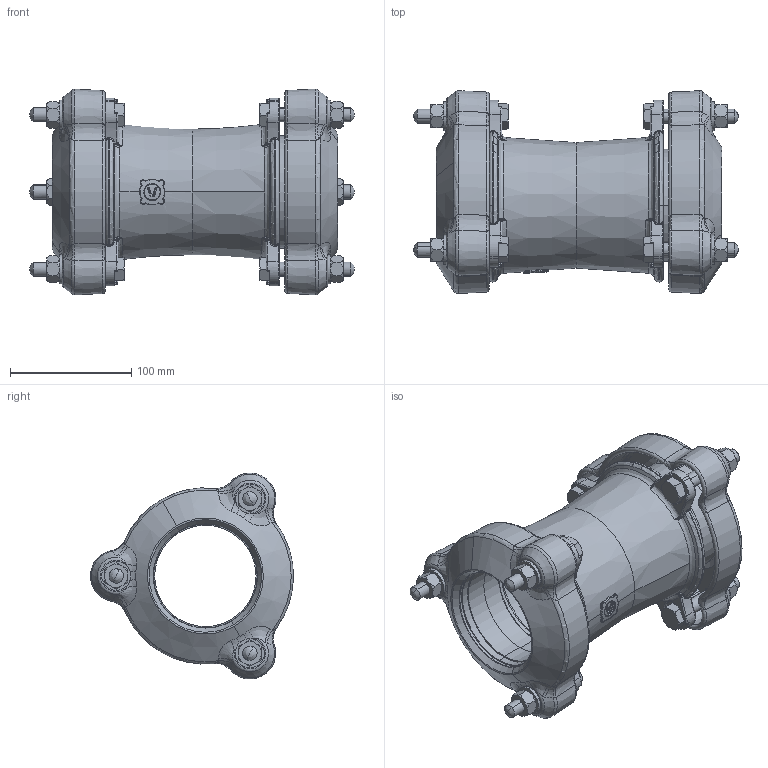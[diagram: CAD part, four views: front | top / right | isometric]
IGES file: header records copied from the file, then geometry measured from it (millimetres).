
Global section: file name: No Iges File Name specified; native system: AutoDesk Inventor R12.0; preprocessor: AutoDesk Inventor Iges Exporter R12.0; date: 20120522.124805; units: millimetre
Bounding box: 268 x 167.37 x 169.78 mm (x, y, z)
Volume: 878795 mm3; surface area: 306835.9 mm2
Topology: 1 solids, 1 shells, 1195 faces, 3219 edges, 1989 vertices
Faces by surface type: bspline 345, plane 275, revolution 172, cone 150, torus 127, cylinder 97, sphere 29
